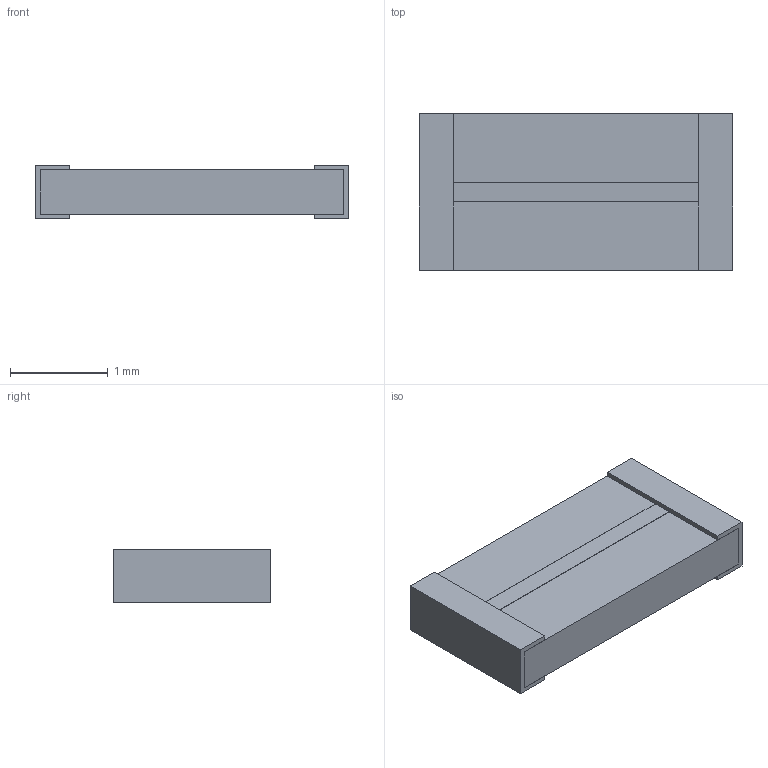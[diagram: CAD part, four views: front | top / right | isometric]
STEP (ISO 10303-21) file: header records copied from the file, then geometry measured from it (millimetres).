
FILE_DESCRIPTION(('STEP AP203'), '1');
FILE_NAME('Ð1-8 1206 ', '', ('UNSPECIFIED'), ('UNSPECIFIED'), 'ASCON STEP Converter 1.6', 'ASCON Math Kernel', '');
FILE_SCHEMA(('CONFIG_CONTROL_DESIGN'));
Length unit declared in the file: millimetre
Bounding box: 3.2 x 1.6 x 0.55 mm (x, y, z)
Volume: 2.4 mm3; surface area: 22.4 mm2
Topology: 3 solids, 4 shells, 50 faces, 123 edges, 82 vertices
Faces by surface type: plane 46, cylinder 4
Entity records: 1913 total; most frequent: CARTESIAN_POINT 256, ORIENTED_EDGE 246, DIRECTION 233, EDGE_CURVE 123, LINE 115, VECTOR 115, VERTEX_POINT 82, AXIS2_PLACEMENT_3D 59
